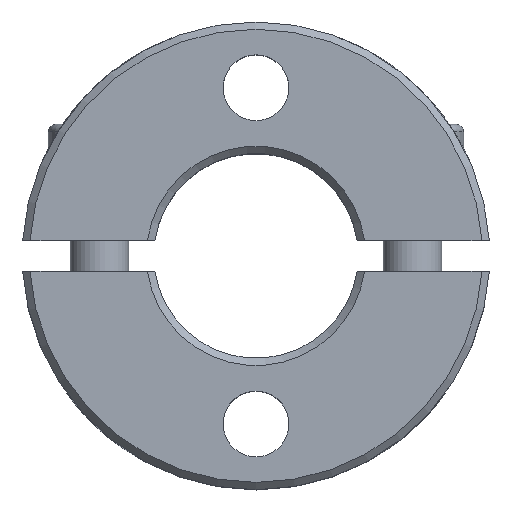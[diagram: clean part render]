
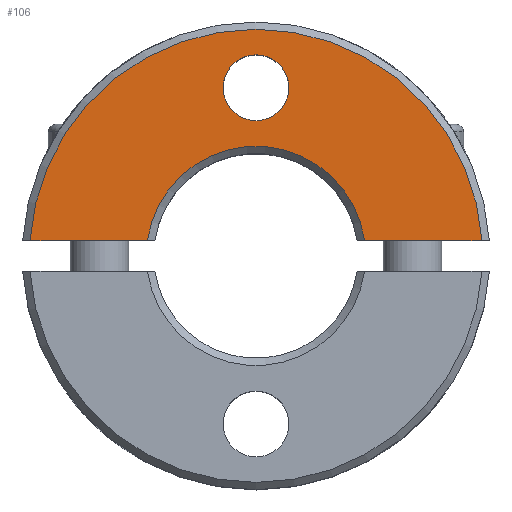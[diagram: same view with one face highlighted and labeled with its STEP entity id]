
A CAD part, top view. The second image highlights one B-rep face of the part: STEP entity #106.
In plain terms, the highlighted planar face has unit normal (0, 0, 1).
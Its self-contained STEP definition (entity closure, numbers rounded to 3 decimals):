
#106 = ADVANCED_FACE( '', ( #215, #216 ), #217, .T. );
#215 = FACE_OUTER_BOUND( '', #365, .T. );
#216 = FACE_BOUND( '', #366, .T. );
#217 = PLANE( '', #367 );
#365 = EDGE_LOOP( '', ( #638, #639, #640, #641 ) );
#366 = EDGE_LOOP( '', ( #642 ) );
#367 = AXIS2_PLACEMENT_3D( '', #643, #644, #645 );
#638 = ORIENTED_EDGE( '', *, *, #865, .F. );
#639 = ORIENTED_EDGE( '', *, *, #904, .T. );
#640 = ORIENTED_EDGE( '', *, *, #899, .F. );
#641 = ORIENTED_EDGE( '', *, *, #854, .F. );
#642 = ORIENTED_EDGE( '', *, *, #894, .T. );
#643 = CARTESIAN_POINT( '', ( 0., 7.5, 5.5 ) );
#644 = DIRECTION( '', ( 0., 0., 1. ) );
#645 = DIRECTION( '', ( 1., 0., 0. ) );
#854 = EDGE_CURVE( '', #988, #989, #990, .T. );
#865 = EDGE_CURVE( '', #1007, #988, #1009, .T. );
#894 = EDGE_CURVE( '', #1059, #1059, #1060, .F. );
#899 = EDGE_CURVE( '', #989, #1068, #1069, .T. );
#904 = EDGE_CURVE( '', #1007, #1068, #1075, .T. );
#988 = VERTEX_POINT( '', #1405 );
#989 = VERTEX_POINT( '', #1406 );
#990 = CIRCLE( '', #1407, 7.5 );
#1007 = VERTEX_POINT( '', #1438 );
#1009 = LINE( '', #1443, #1444 );
#1059 = VERTEX_POINT( '', #1566 );
#1060 = CIRCLE( '', #1567, 2.25 );
#1068 = VERTEX_POINT( '', #1576 );
#1069 = LINE( '', #1577, #1578 );
#1075 = CIRCLE( '', #1589, 15.5 );
#1405 = CARTESIAN_POINT( '', ( 7.426, 1.05, 5.5 ) );
#1406 = CARTESIAN_POINT( '', ( -7.426, 1.05, 5.5 ) );
#1407 = AXIS2_PLACEMENT_3D( '', #1719, #1720, #1721 );
#1438 = CARTESIAN_POINT( '', ( 15.464, 1.05, 5.5 ) );
#1443 = CARTESIAN_POINT( '', ( 18., 1.05, 5.5 ) );
#1444 = VECTOR( '', #1733, 1000. );
#1566 = CARTESIAN_POINT( '', ( 2.25, 11.5, 5.5 ) );
#1567 = AXIS2_PLACEMENT_3D( '', #1777, #1778, #1779 );
#1576 = CARTESIAN_POINT( '', ( -15.464, 1.05, 5.5 ) );
#1577 = CARTESIAN_POINT( '', ( 0., 1.05, 5.5 ) );
#1578 = VECTOR( '', #1790, 1000. );
#1589 = AXIS2_PLACEMENT_3D( '', #1796, #1797, #1798 );
#1719 = CARTESIAN_POINT( '', ( 0., 0., 5.5 ) );
#1720 = DIRECTION( '', ( 0., 0., 1. ) );
#1721 = DIRECTION( '', ( 1., 0., 0. ) );
#1733 = DIRECTION( '', ( -1., 0., 0. ) );
#1777 = CARTESIAN_POINT( '', ( 0., 11.5, 5.5 ) );
#1778 = DIRECTION( '', ( 0., 0., 1. ) );
#1779 = DIRECTION( '', ( 1., 0., 0. ) );
#1790 = DIRECTION( '', ( -1., 0., 0. ) );
#1796 = CARTESIAN_POINT( '', ( 0., 0., 5.5 ) );
#1797 = DIRECTION( '', ( 0., 0., 1. ) );
#1798 = DIRECTION( '', ( 1., 0., 0. ) );
